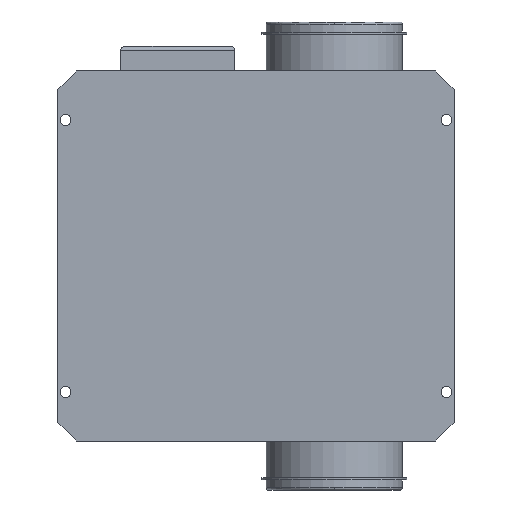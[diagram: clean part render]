
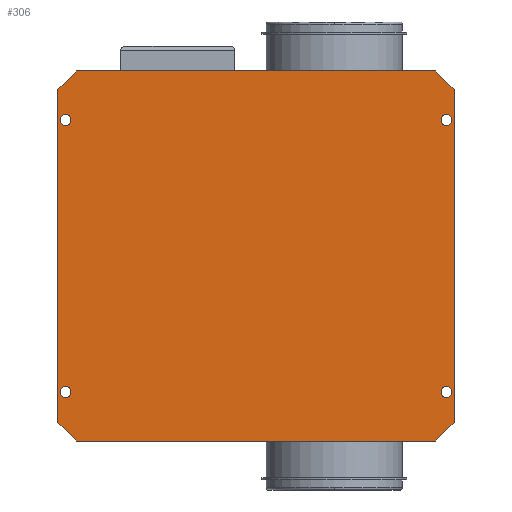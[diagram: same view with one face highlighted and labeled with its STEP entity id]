
A CAD part, front view. The second image highlights one B-rep face of the part: STEP entity #306.
In plain terms, the highlighted planar face has unit normal (0, -1, 0).
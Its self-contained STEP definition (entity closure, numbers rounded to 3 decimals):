
#306=ADVANCED_FACE('',(#638,#639,#640,#641,#642),#643,.F.);
#638=FACE_OUTER_BOUND('',#976,.T.);
#639=FACE_BOUND('',#977,.T.);
#640=FACE_BOUND('',#978,.T.);
#641=FACE_BOUND('',#979,.T.);
#642=FACE_BOUND('',#980,.T.);
#643=PLANE('',#981);
#976=EDGE_LOOP('',(#1817,#1818,#1819,#1820,#1821,#1822,#1823,#1824));
#977=EDGE_LOOP('',(#1825,#1826));
#978=EDGE_LOOP('',(#1827,#1828));
#979=EDGE_LOOP('',(#1829,#1830));
#980=EDGE_LOOP('',(#1831,#1832));
#981=AXIS2_PLACEMENT_3D('',#1833,#1834,#1835);
#1817=ORIENTED_EDGE('',*,*,#2215,.T.);
#1818=ORIENTED_EDGE('',*,*,#2273,.F.);
#1819=ORIENTED_EDGE('',*,*,#2228,.T.);
#1820=ORIENTED_EDGE('',*,*,#2225,.T.);
#1821=ORIENTED_EDGE('',*,*,#2222,.T.);
#1822=ORIENTED_EDGE('',*,*,#2274,.F.);
#1823=ORIENTED_EDGE('',*,*,#2231,.T.);
#1824=ORIENTED_EDGE('',*,*,#2218,.F.);
#1825=ORIENTED_EDGE('',*,*,#2240,.T.);
#1826=ORIENTED_EDGE('',*,*,#1936,.T.);
#1827=ORIENTED_EDGE('',*,*,#2238,.T.);
#1828=ORIENTED_EDGE('',*,*,#1941,.T.);
#1829=ORIENTED_EDGE('',*,*,#2236,.T.);
#1830=ORIENTED_EDGE('',*,*,#1946,.T.);
#1831=ORIENTED_EDGE('',*,*,#2234,.T.);
#1832=ORIENTED_EDGE('',*,*,#1951,.T.);
#1833=CARTESIAN_POINT('',(0.0,-105.0,0.0));
#1834=DIRECTION('',(0.0,1.0,-0.0));
#1835=DIRECTION('',(-0.0,0.0,1.0));
#1936=EDGE_CURVE('',#2307,#2311,#2313,.T.);
#1941=EDGE_CURVE('',#2316,#2320,#2322,.T.);
#1946=EDGE_CURVE('',#2325,#2329,#2331,.T.);
#1951=EDGE_CURVE('',#2334,#2338,#2340,.T.);
#2215=EDGE_CURVE('',#2741,#2739,#2742,.T.);
#2218=EDGE_CURVE('',#2741,#2745,#2746,.T.);
#2222=EDGE_CURVE('',#2751,#2749,#2752,.T.);
#2225=EDGE_CURVE('',#2755,#2751,#2756,.T.);
#2228=EDGE_CURVE('',#2759,#2755,#2760,.T.);
#2231=EDGE_CURVE('',#2763,#2745,#2764,.T.);
#2234=EDGE_CURVE('',#2338,#2334,#2767,.T.);
#2236=EDGE_CURVE('',#2329,#2325,#2769,.T.);
#2238=EDGE_CURVE('',#2320,#2316,#2771,.T.);
#2240=EDGE_CURVE('',#2311,#2307,#2773,.T.);
#2273=EDGE_CURVE('',#2759,#2739,#2818,.T.);
#2274=EDGE_CURVE('',#2763,#2749,#2819,.T.);
#2307=VERTEX_POINT('',#2892);
#2311=VERTEX_POINT('',#2897);
#2313=CIRCLE('',#2900,5.0);
#2316=VERTEX_POINT('',#2903);
#2320=VERTEX_POINT('',#2908);
#2322=CIRCLE('',#2911,5.0);
#2325=VERTEX_POINT('',#2914);
#2329=VERTEX_POINT('',#2919);
#2331=CIRCLE('',#2922,5.0);
#2334=VERTEX_POINT('',#2925);
#2338=VERTEX_POINT('',#2930);
#2340=CIRCLE('',#2933,5.0);
#2739=VERTEX_POINT('',#3431);
#2741=VERTEX_POINT('',#3434);
#2742=LINE('',#3435,#3436);
#2745=VERTEX_POINT('',#3440);
#2746=LINE('',#3441,#3442);
#2749=VERTEX_POINT('',#3446);
#2751=VERTEX_POINT('',#3449);
#2752=LINE('',#3450,#3451);
#2755=VERTEX_POINT('',#3455);
#2756=LINE('',#3456,#3457);
#2759=VERTEX_POINT('',#3461);
#2760=LINE('',#3462,#3463);
#2763=VERTEX_POINT('',#3467);
#2764=LINE('',#3468,#3469);
#2767=CIRCLE('',#3473,5.0);
#2769=CIRCLE('',#3475,5.0);
#2771=CIRCLE('',#3477,5.0);
#2773=CIRCLE('',#3479,5.0);
#2818=LINE('',#3534,#3535);
#2819=LINE('',#3536,#3537);
#2892=CARTESIAN_POINT('',(-170.0,-105.0,-125.0));
#2897=CARTESIAN_POINT('',(-180.0,-105.0,-125.0));
#2900=AXIS2_PLACEMENT_3D('',#3571,#3572,#3573);
#2903=CARTESIAN_POINT('',(-170.0,-105.0,125.0));
#2908=CARTESIAN_POINT('',(-180.0,-105.0,125.0));
#2911=AXIS2_PLACEMENT_3D('',#3579,#3580,#3581);
#2914=CARTESIAN_POINT('',(180.0,-105.0,125.0));
#2919=CARTESIAN_POINT('',(170.0,-105.0,125.0));
#2922=AXIS2_PLACEMENT_3D('',#3587,#3588,#3589);
#2925=CARTESIAN_POINT('',(180.0,-105.0,-125.0));
#2930=CARTESIAN_POINT('',(170.0,-105.0,-125.0));
#2933=AXIS2_PLACEMENT_3D('',#3595,#3596,#3597);
#3431=CARTESIAN_POINT('',(165.0,-105.0,170.0));
#3434=CARTESIAN_POINT('',(182.0,-105.0,153.0));
#3435=CARTESIAN_POINT('',(170.5,-105.0,164.5));
#3436=VECTOR('',#3980,1.0);
#3440=CARTESIAN_POINT('',(182.0,-105.0,-153.0));
#3441=CARTESIAN_POINT('',(182.0,-105.0,0.0));
#3442=VECTOR('',#3982,1.0);
#3446=CARTESIAN_POINT('',(-165.0,-105.0,-170.0));
#3449=CARTESIAN_POINT('',(-182.0,-105.0,-153.0));
#3450=CARTESIAN_POINT('',(-170.5,-105.0,-164.5));
#3451=VECTOR('',#3985,1.0);
#3455=CARTESIAN_POINT('',(-182.0,-105.0,153.0));
#3456=CARTESIAN_POINT('',(-182.0,-105.0,0.0));
#3457=VECTOR('',#3987,1.0);
#3461=CARTESIAN_POINT('',(-165.0,-105.0,170.0));
#3462=CARTESIAN_POINT('',(-170.5,-105.0,164.5));
#3463=VECTOR('',#3989,1.0);
#3467=CARTESIAN_POINT('',(165.0,-105.0,-170.0));
#3468=CARTESIAN_POINT('',(170.5,-105.0,-164.5));
#3469=VECTOR('',#3991,1.0);
#3473=AXIS2_PLACEMENT_3D('',#3993,#3994,#3995);
#3475=AXIS2_PLACEMENT_3D('',#3996,#3997,#3998);
#3477=AXIS2_PLACEMENT_3D('',#3999,#4000,#4001);
#3479=AXIS2_PLACEMENT_3D('',#4002,#4003,#4004);
#3534=CARTESIAN_POINT('',(0.0,-105.0,170.0));
#3535=VECTOR('',#4051,1.0);
#3536=CARTESIAN_POINT('',(0.0,-105.0,-170.0));
#3537=VECTOR('',#4052,1.0);
#3571=CARTESIAN_POINT('',(-175.0,-105.0,-125.0));
#3572=DIRECTION('',(-0.0,1.0,0.0));
#3573=DIRECTION('',(1.0,0.0,0.0));
#3579=CARTESIAN_POINT('',(-175.0,-105.0,125.0));
#3580=DIRECTION('',(-0.0,1.0,0.0));
#3581=DIRECTION('',(1.0,0.0,0.0));
#3587=CARTESIAN_POINT('',(175.0,-105.0,125.0));
#3588=DIRECTION('',(-0.0,1.0,0.0));
#3589=DIRECTION('',(1.0,0.0,0.0));
#3595=CARTESIAN_POINT('',(175.0,-105.0,-125.0));
#3596=DIRECTION('',(-0.0,1.0,0.0));
#3597=DIRECTION('',(1.0,0.0,0.0));
#3980=DIRECTION('',(-0.707,0.0,0.707));
#3982=DIRECTION('',(0.0,0.0,-1.0));
#3985=DIRECTION('',(0.707,0.0,-0.707));
#3987=DIRECTION('',(0.0,0.0,-1.0));
#3989=DIRECTION('',(-0.707,0.0,-0.707));
#3991=DIRECTION('',(0.707,-0.0,0.707));
#3993=CARTESIAN_POINT('',(175.0,-105.0,-125.0));
#3994=DIRECTION('',(-0.0,1.0,0.0));
#3995=DIRECTION('',(1.0,0.0,0.0));
#3996=CARTESIAN_POINT('',(175.0,-105.0,125.0));
#3997=DIRECTION('',(-0.0,1.0,0.0));
#3998=DIRECTION('',(1.0,0.0,0.0));
#3999=CARTESIAN_POINT('',(-175.0,-105.0,125.0));
#4000=DIRECTION('',(-0.0,1.0,0.0));
#4001=DIRECTION('',(1.0,0.0,0.0));
#4002=CARTESIAN_POINT('',(-175.0,-105.0,-125.0));
#4003=DIRECTION('',(-0.0,1.0,0.0));
#4004=DIRECTION('',(1.0,0.0,0.0));
#4051=DIRECTION('',(1.0,0.0,0.0));
#4052=DIRECTION('',(-1.0,0.0,0.0));
